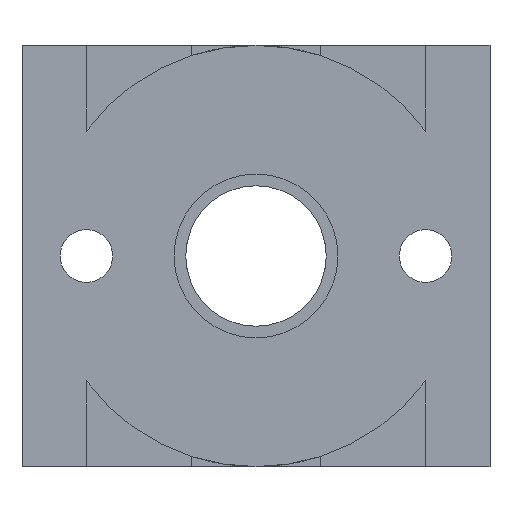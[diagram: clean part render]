
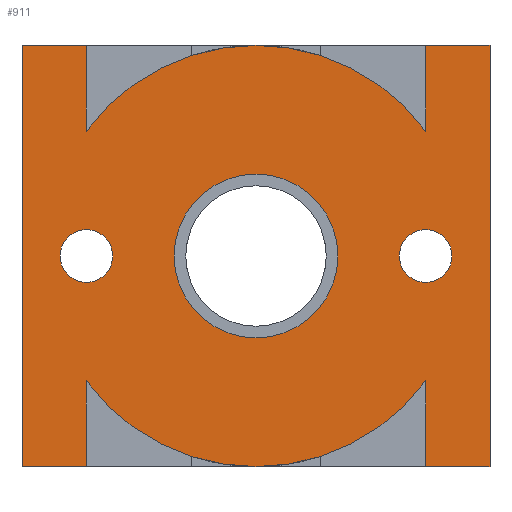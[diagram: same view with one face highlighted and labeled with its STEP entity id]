
A CAD part, front view. The second image highlights one B-rep face of the part: STEP entity #911.
In plain terms, the highlighted planar face has unit normal (0, -1, 0).
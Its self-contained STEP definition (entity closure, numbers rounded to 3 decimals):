
#27=PLANE('',#984);
#56=FACE_BOUND('',#138,.T.);
#57=FACE_BOUND('',#139,.T.);
#58=FACE_BOUND('',#140,.T.);
#88=FACE_OUTER_BOUND('',#137,.T.);
#137=EDGE_LOOP('',(#688,#689,#690,#691,#692,#693,#694,#695,#696,#697,#698,
#699,#700,#701,#702,#703));
#138=EDGE_LOOP('',(#704));
#139=EDGE_LOOP('',(#705));
#140=EDGE_LOOP('',(#706));
#188=LINE('',#1375,#280);
#193=LINE('',#1389,#285);
#200=LINE('',#1410,#292);
#205=LINE('',#1424,#297);
#207=LINE('',#1433,#299);
#208=LINE('',#1435,#300);
#209=LINE('',#1436,#301);
#210=LINE('',#1438,#302);
#211=LINE('',#1440,#303);
#212=LINE('',#1441,#304);
#280=VECTOR('',#1098,10.);
#285=VECTOR('',#1109,10.);
#292=VECTOR('',#1130,10.);
#297=VECTOR('',#1141,10.);
#299=VECTOR('',#1153,10.);
#300=VECTOR('',#1154,10.);
#301=VECTOR('',#1155,10.);
#302=VECTOR('',#1156,10.);
#303=VECTOR('',#1157,10.);
#304=VECTOR('',#1158,10.);
#368=CIRCLE('',#966,9.);
#369=CIRCLE('',#969,9.);
#372=CIRCLE('',#973,9.);
#373=CIRCLE('',#976,9.);
#374=CIRCLE('',#979,9.);
#375=CIRCLE('',#981,9.);
#378=CIRCLE('',#985,3.5);
#379=CIRCLE('',#986,1.125);
#380=CIRCLE('',#987,1.125);
#415=VERTEX_POINT('',#1367);
#416=VERTEX_POINT('',#1371);
#417=VERTEX_POINT('',#1373);
#420=VERTEX_POINT('',#1380);
#422=VERTEX_POINT('',#1386);
#423=VERTEX_POINT('',#1388);
#426=VERTEX_POINT('',#1396);
#429=VERTEX_POINT('',#1406);
#430=VERTEX_POINT('',#1408);
#433=VERTEX_POINT('',#1415);
#435=VERTEX_POINT('',#1421);
#436=VERTEX_POINT('',#1423);
#438=VERTEX_POINT('',#1432);
#439=VERTEX_POINT('',#1434);
#440=VERTEX_POINT('',#1437);
#441=VERTEX_POINT('',#1439);
#442=VERTEX_POINT('',#1442);
#443=VERTEX_POINT('',#1444);
#444=VERTEX_POINT('',#1446);
#511=EDGE_CURVE('',#415,#416,#368,.T.);
#513=EDGE_CURVE('',#416,#417,#188,.T.);
#518=EDGE_CURVE('',#422,#420,#369,.T.);
#519=EDGE_CURVE('',#423,#422,#193,.T.);
#524=EDGE_CURVE('',#420,#426,#372,.T.);
#528=EDGE_CURVE('',#426,#429,#373,.T.);
#530=EDGE_CURVE('',#429,#430,#200,.T.);
#535=EDGE_CURVE('',#435,#433,#374,.T.);
#536=EDGE_CURVE('',#436,#435,#205,.T.);
#538=EDGE_CURVE('',#433,#415,#375,.T.);
#541=EDGE_CURVE('',#430,#438,#207,.T.);
#542=EDGE_CURVE('',#438,#439,#208,.T.);
#543=EDGE_CURVE('',#439,#436,#209,.T.);
#544=EDGE_CURVE('',#417,#440,#210,.T.);
#545=EDGE_CURVE('',#440,#441,#211,.T.);
#546=EDGE_CURVE('',#441,#423,#212,.T.);
#547=EDGE_CURVE('',#442,#442,#378,.T.);
#548=EDGE_CURVE('',#443,#443,#379,.T.);
#549=EDGE_CURVE('',#444,#444,#380,.T.);
#688=ORIENTED_EDGE('',*,*,#518,.T.);
#689=ORIENTED_EDGE('',*,*,#524,.T.);
#690=ORIENTED_EDGE('',*,*,#528,.T.);
#691=ORIENTED_EDGE('',*,*,#530,.T.);
#692=ORIENTED_EDGE('',*,*,#541,.T.);
#693=ORIENTED_EDGE('',*,*,#542,.T.);
#694=ORIENTED_EDGE('',*,*,#543,.T.);
#695=ORIENTED_EDGE('',*,*,#536,.T.);
#696=ORIENTED_EDGE('',*,*,#535,.T.);
#697=ORIENTED_EDGE('',*,*,#538,.T.);
#698=ORIENTED_EDGE('',*,*,#511,.T.);
#699=ORIENTED_EDGE('',*,*,#513,.T.);
#700=ORIENTED_EDGE('',*,*,#544,.T.);
#701=ORIENTED_EDGE('',*,*,#545,.T.);
#702=ORIENTED_EDGE('',*,*,#546,.T.);
#703=ORIENTED_EDGE('',*,*,#519,.T.);
#704=ORIENTED_EDGE('',*,*,#547,.T.);
#705=ORIENTED_EDGE('',*,*,#548,.T.);
#706=ORIENTED_EDGE('',*,*,#549,.T.);
#911=ADVANCED_FACE('',(#88,#56,#57,#58),#27,.F.);
#966=AXIS2_PLACEMENT_3D('',#1372,#1095,#1096);
#969=AXIS2_PLACEMENT_3D('',#1387,#1107,#1108);
#973=AXIS2_PLACEMENT_3D('',#1398,#1118,#1119);
#976=AXIS2_PLACEMENT_3D('',#1407,#1127,#1128);
#979=AXIS2_PLACEMENT_3D('',#1422,#1139,#1140);
#981=AXIS2_PLACEMENT_3D('',#1427,#1145,#1146);
#984=AXIS2_PLACEMENT_3D('',#1431,#1151,#1152);
#985=AXIS2_PLACEMENT_3D('',#1443,#1159,#1160);
#986=AXIS2_PLACEMENT_3D('',#1445,#1161,#1162);
#987=AXIS2_PLACEMENT_3D('',#1447,#1163,#1164);
#1095=DIRECTION('center_axis',(0.,-1.,0.));
#1096=DIRECTION('ref_axis',(1.,0.,0.));
#1098=DIRECTION('',(0.,0.,-1.));
#1107=DIRECTION('center_axis',(0.,-1.,0.));
#1108=DIRECTION('ref_axis',(1.,0.,0.));
#1109=DIRECTION('',(0.,0.,-1.));
#1118=DIRECTION('center_axis',(0.,-1.,0.));
#1119=DIRECTION('ref_axis',(1.,0.,0.));
#1127=DIRECTION('center_axis',(0.,-1.,0.));
#1128=DIRECTION('ref_axis',(1.,0.,0.));
#1130=DIRECTION('',(0.,0.,1.));
#1139=DIRECTION('center_axis',(0.,-1.,0.));
#1140=DIRECTION('ref_axis',(1.,0.,0.));
#1141=DIRECTION('',(0.,0.,1.));
#1145=DIRECTION('center_axis',(0.,-1.,0.));
#1146=DIRECTION('ref_axis',(1.,0.,0.));
#1151=DIRECTION('center_axis',(0.,1.,0.));
#1152=DIRECTION('ref_axis',(1.,0.,0.));
#1153=DIRECTION('',(-1.,0.,0.));
#1154=DIRECTION('',(0.,0.,-1.));
#1155=DIRECTION('',(1.,0.,0.));
#1156=DIRECTION('',(1.,0.,0.));
#1157=DIRECTION('',(0.,0.,1.));
#1158=DIRECTION('',(-1.,0.,0.));
#1159=DIRECTION('center_axis',(0.,1.,0.));
#1160=DIRECTION('ref_axis',(1.,0.,0.));
#1161=DIRECTION('center_axis',(0.,1.,0.));
#1162=DIRECTION('ref_axis',(1.,0.,0.));
#1163=DIRECTION('center_axis',(0.,1.,0.));
#1164=DIRECTION('ref_axis',(1.,0.,0.));
#1367=CARTESIAN_POINT('',(2.75,-1.,-8.57));
#1371=CARTESIAN_POINT('',(7.25,-1.,-5.333));
#1372=CARTESIAN_POINT('Origin',(0.,-1.,0.));
#1373=CARTESIAN_POINT('',(7.25,-1.,-9.));
#1375=CARTESIAN_POINT('',(7.25,-1.,0.));
#1380=CARTESIAN_POINT('',(2.75,-1.,8.57));
#1386=CARTESIAN_POINT('',(7.25,-1.,5.333));
#1387=CARTESIAN_POINT('Origin',(0.,-1.,0.));
#1388=CARTESIAN_POINT('',(7.25,-1.,9.));
#1389=CARTESIAN_POINT('',(7.25,-1.,0.));
#1396=CARTESIAN_POINT('',(-2.75,-1.,8.57));
#1398=CARTESIAN_POINT('Origin',(0.,-1.,0.));
#1406=CARTESIAN_POINT('',(-7.25,-1.,5.333));
#1407=CARTESIAN_POINT('Origin',(0.,-1.,0.));
#1408=CARTESIAN_POINT('',(-7.25,-1.,9.));
#1410=CARTESIAN_POINT('',(-7.25,-1.,0.));
#1415=CARTESIAN_POINT('',(-2.75,-1.,-8.57));
#1421=CARTESIAN_POINT('',(-7.25,-1.,-5.333));
#1422=CARTESIAN_POINT('Origin',(0.,-1.,0.));
#1423=CARTESIAN_POINT('',(-7.25,-1.,-9.));
#1424=CARTESIAN_POINT('',(-7.25,-1.,0.));
#1427=CARTESIAN_POINT('Origin',(0.,-1.,0.));
#1431=CARTESIAN_POINT('Origin',(0.,-1.,0.));
#1432=CARTESIAN_POINT('',(-10.,-1.,9.));
#1433=CARTESIAN_POINT('',(-7.25,-1.,9.));
#1434=CARTESIAN_POINT('',(-10.,-1.,-9.));
#1435=CARTESIAN_POINT('',(-10.,-1.,7.));
#1436=CARTESIAN_POINT('',(-7.25,-1.,-9.));
#1437=CARTESIAN_POINT('',(10.,-1.,-9.));
#1438=CARTESIAN_POINT('',(7.25,-1.,-9.));
#1439=CARTESIAN_POINT('',(10.,-1.,9.));
#1440=CARTESIAN_POINT('',(10.,-1.,-7.));
#1441=CARTESIAN_POINT('',(7.25,-1.,9.));
#1442=CARTESIAN_POINT('',(-3.5,-1.,0.));
#1443=CARTESIAN_POINT('Origin',(0.,-1.,0.));
#1444=CARTESIAN_POINT('',(6.125,-1.,0.));
#1445=CARTESIAN_POINT('Origin',(7.25,-1.,0.));
#1446=CARTESIAN_POINT('',(-8.375,-1.,0.));
#1447=CARTESIAN_POINT('Origin',(-7.25,-1.,0.));
